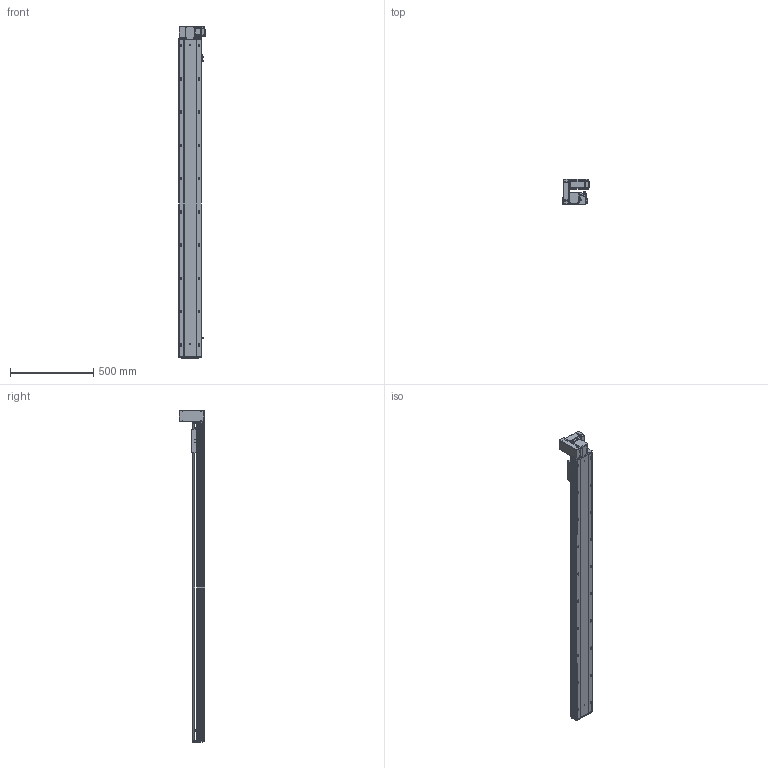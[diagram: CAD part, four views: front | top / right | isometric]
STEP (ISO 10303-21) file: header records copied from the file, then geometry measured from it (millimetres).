
FILE_DESCRIPTION (( 'STEP AP203' ), '1' );
FILE_NAME ('RY140-T-300-UL.SLDASM_1650.step', '2021-03-01T07:44:46', ( '盈信电脑' ), ( '东莞市道滘镇水果街19号' ), 'SwSTEP 2.0', 'SolidWorks 2012', '' );
FILE_SCHEMA (( 'CONFIG_CONTROL_DESIGN' ));
Length unit declared in the file: millimetre
Products named in the file (18): RY140-T翋肮謫裔啣; 滅袉蝶18-10; RY140-T-300-UL.SLDASM_1650; RY140-T萇儂欶; RY120-T蹟翐M4; RY120-T主同步轮轴承压盖; RY140-T萇儂假蚾啣; 侂狟400W侜督萇儂; RY140-T翋肮祭謫盓傅釱; 15; RY120-T肮祭湍揤踡輸1; 覜茼ん672; RY120-T肮祭湍揤踡輸2; RY120外置感应片(140共用）; RY140-T-300-DL倰第菁釱_1650; RY140-T-300-DL倰第奻裔啣_1650; RY140肮祭謫臏賑輸; RY140綴裔啣
Assembly tree (23 placements, depth 3):
  RY140-T-300-UL.SLDASM_1650
    RY140-T-300-DL倰第菁釱_1650
    RY140肮祭謫臏賑輸
    RY140-T-300-DL倰第奻裔啣_1650
    RY140綴裔啣
    覜茼ん672  x3
    RY120外置感应片(140共用）
    RY120-T肮祭湍揤踡輸2
    RY120-T肮祭湍揤踡輸1
    RY140-T翋肮祭謫盓傅釱
    RY140-T萇儂假蚾啣
    侂狟400W侜督萇儂
      15
    RY120-T主同步轮轴承压盖
    RY120-T蹟翐M4  x4
    RY140-T萇儂欶
    滅袉蝶18-10  x2
    RY140-T翋肮謫裔啣
Bounding box: 157 x 152.5 x 1996 mm (x, y, z)
Volume: 5551800.1 mm3; surface area: 2158986.3 mm2
Topology: 22 solids, 22 shells, 2807 faces, 7697 edges, 4910 vertices
Faces by surface type: plane 1381, cylinder 1060, cone 266, bspline 100
Entity records: 88755 total; most frequent: CARTESIAN_POINT 21579, ORIENTED_EDGE 13794, DIRECTION 13173, EDGE_CURVE 6897, VERTEX_POINT 4509, AXIS2_PLACEMENT_3D 4412, LINE 4349, VECTOR 4349
